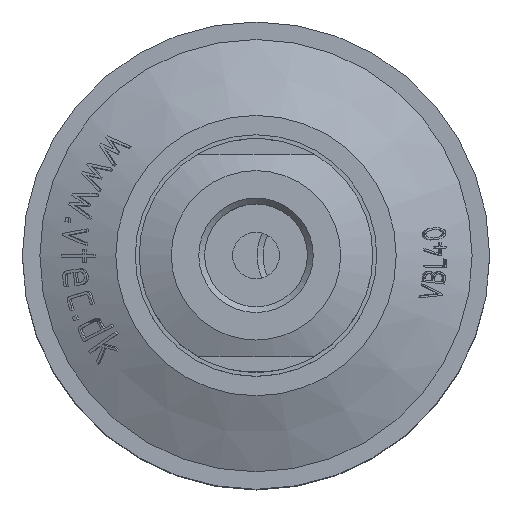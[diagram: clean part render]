
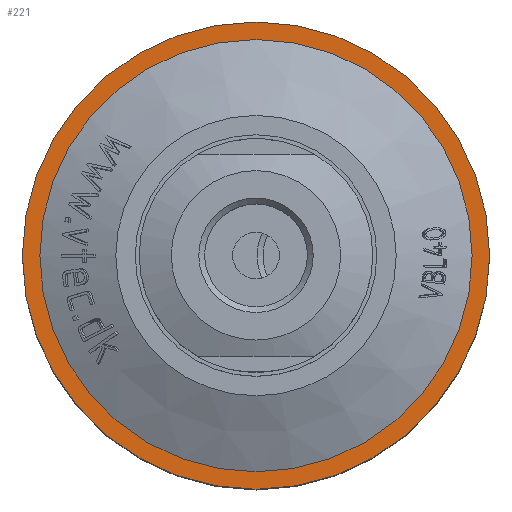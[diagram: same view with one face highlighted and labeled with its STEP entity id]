
A CAD part, top view. The second image highlights one B-rep face of the part: STEP entity #221.
In plain terms, the highlighted planar face has unit normal (0, 0, 1).
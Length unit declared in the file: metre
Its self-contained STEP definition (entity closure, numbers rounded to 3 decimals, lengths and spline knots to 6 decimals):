
#221 = ADVANCED_FACE( '', ( #527, #528 ), #529, .F. );
#527 = FACE_OUTER_BOUND( '', #2148, .T. );
#528 = FACE_BOUND( '', #2149, .T. );
#529 = PLANE( '', #2150 );
#2148 = EDGE_LOOP( '', ( #5472 ) );
#2149 = EDGE_LOOP( '', ( #5473 ) );
#2150 = AXIS2_PLACEMENT_3D( '', #5474, #5475, #5476 );
#5472 = ORIENTED_EDGE( '', *, *, #6608, .F. );
#5473 = ORIENTED_EDGE( '', *, *, #6392, .T. );
#5474 = CARTESIAN_POINT( '', ( -0.02, 0., 0.01295 ) );
#5475 = DIRECTION( '', ( 0., 0., -1. ) );
#5476 = DIRECTION( '', ( -1., 0., 0. ) );
#6392 = EDGE_CURVE( '', #6894, #6894, #6895, .T. );
#6608 = EDGE_CURVE( '', #7291, #7291, #7292, .T. );
#6894 = VERTEX_POINT( '', #7811 );
#6895 = CIRCLE( '', #7812, 0.0185 );
#7291 = VERTEX_POINT( '', #9518 );
#7292 = CIRCLE( '', #9519, 0.02 );
#7811 = CARTESIAN_POINT( '', ( -0.0185, 0., 0.01295 ) );
#7812 = AXIS2_PLACEMENT_3D( '', #10739, #10740, #10741 );
#9518 = CARTESIAN_POINT( '', ( -0.02, 0., 0.01295 ) );
#9519 = AXIS2_PLACEMENT_3D( '', #10769, #10770, #10771 );
#10739 = CARTESIAN_POINT( '', ( 0., 0., 0.01295 ) );
#10740 = DIRECTION( '', ( 0., 0., -1. ) );
#10741 = DIRECTION( '', ( -1., 0., 0. ) );
#10769 = CARTESIAN_POINT( '', ( 0., 0., 0.01295 ) );
#10770 = DIRECTION( '', ( 0., 0., -1. ) );
#10771 = DIRECTION( '', ( -1., 0., 0. ) );
